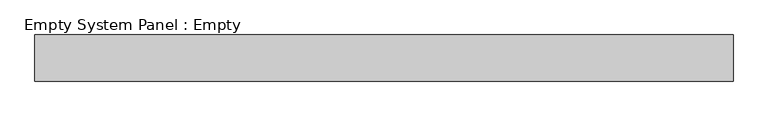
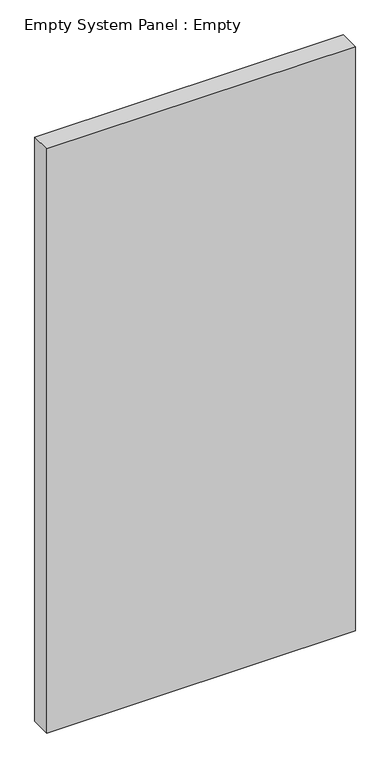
"""IFC4 building model written with IfcOpenShell, lengths in millimetres: plate geometry, Empty System Panel : Empty."""

from ifc_helpers import new_model, si_unit, origin, origin_with_axes, place, context, project, spatial, polyline, outline, extrude, source, transform, mapped, element, save


def empty_system_panel_empty_ae16e1e1(model_context):
    return source(origin(), model_context, "Body", "SweptSolid", [
        extrude(outline(polyline([(750.0, -50.0), (-750.0, -50.0), (-750.0, 50.0), (750.0, 50.0), (750.0, -50.0)])), origin_with_axes(), (0.0, 0.0, 1.0), 3000.0),
    ])


if __name__ == "__main__":
    model = new_model("IFC4")
    model_context = context("Model", 3, world=origin())
    ifc_project = project(units=[si_unit("LENGTHUNIT", "METRE", prefix="MILLI")], contexts=[model_context])
    site = spatial("IfcSite", under=ifc_project)
    building = spatial("IfcBuilding", under=site)
    placement = place(None, origin())
    empty_system_panel_empty_shape = empty_system_panel_empty_ae16e1e1(model_context)
    element("IfcPlate", 1, ObjectType="Empty System Panel : Empty", at=placement, inside=building, context=model_context, shape_type="MappedRepresentation", body=[
        mapped(empty_system_panel_empty_shape, transform((0.0, 0.0, 0.0), x_axis=(1.0, 0.0, 0.0), y_axis=(0.0, 1.0, 0.0), z_axis=(0.0, 0.0, 1.0))),
    ])
    save(model, "model.ifc")
